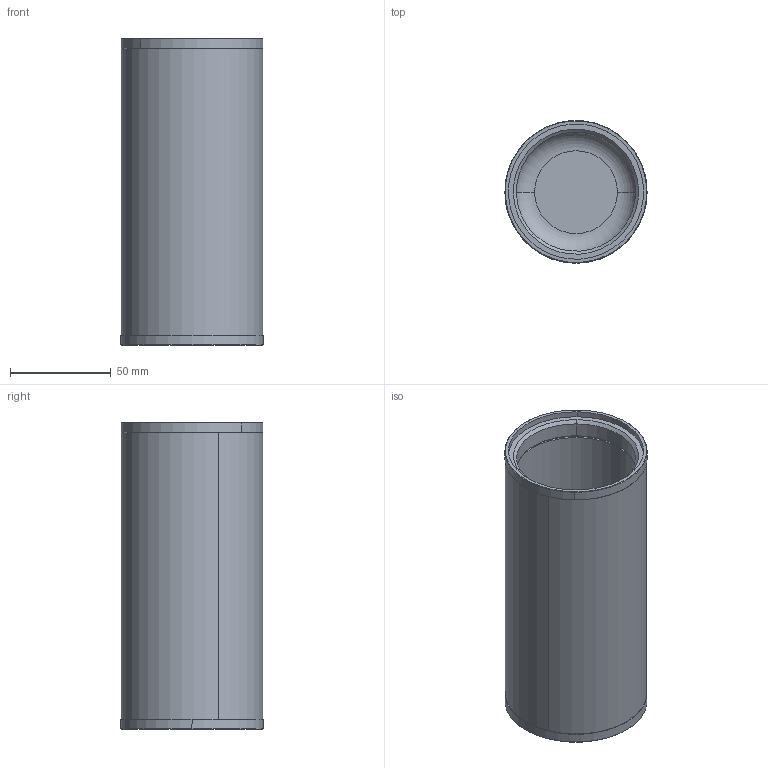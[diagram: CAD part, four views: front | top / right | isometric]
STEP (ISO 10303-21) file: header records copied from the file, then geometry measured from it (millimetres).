
FILE_DESCRIPTION (( 'STEP AP203' ), '1' );
FILE_NAME ('CWB1.STEP', '2020-12-15T14:00:36', ( '' ), ( '' ), 'SwSTEP 2.0', 'SolidWorks 2021', '' );
FILE_SCHEMA (( 'CONFIG_CONTROL_DESIGN' ));
Length unit declared in the file: millimetre
Products named in the file (4): C25.2360.00.0; CWB1; C21.2358.00.0; C21.2359.00.0
Assembly tree (3 placements, depth 2):
  CWB1
    C21.2359.00.0
    C25.2360.00.0
    C21.2358.00.0
Bounding box: 70.5 x 70.5 x 152 mm (x, y, z)
Volume: 158770.8 mm3; surface area: 134328.6 mm2
Topology: 3 solids, 3 shells, 54 faces, 106 edges, 66 vertices
Faces by surface type: cylinder 26, plane 14, cone 12, torus 2
Entity records: 1828 total; most frequent: DIRECTION 294, CARTESIAN_POINT 232, ORIENTED_EDGE 212, AXIS2_PLACEMENT_3D 128, EDGE_CURVE 106, CIRCLE 68, VERTEX_POINT 66, EDGE_LOOP 66
